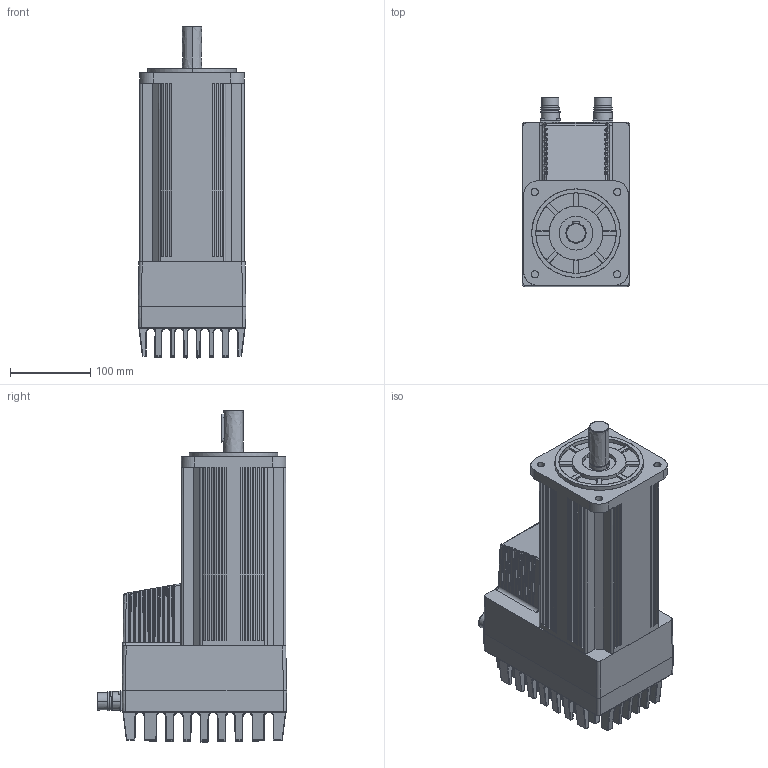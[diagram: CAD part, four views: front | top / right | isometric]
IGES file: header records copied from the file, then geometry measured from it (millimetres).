
Start section: Comment
Global section: file name: MAC3000-D5 V1_3.igs; native system:  By UGS Corp.; preprocessor: XPlus GENERIC/IGES 3.0; author: Author; organization: Title; date: 20150617.134734; units: millimetre
Bounding box: 133.88 x 235.28 x 412.98 mm (x, y, z)
Surface area: 554022.5 mm2 (no closed solid volume)
Topology: 0 solids, 0 shells, 2545 faces, 12507 edges, 12460 vertices
Faces by surface type: bspline 2545
